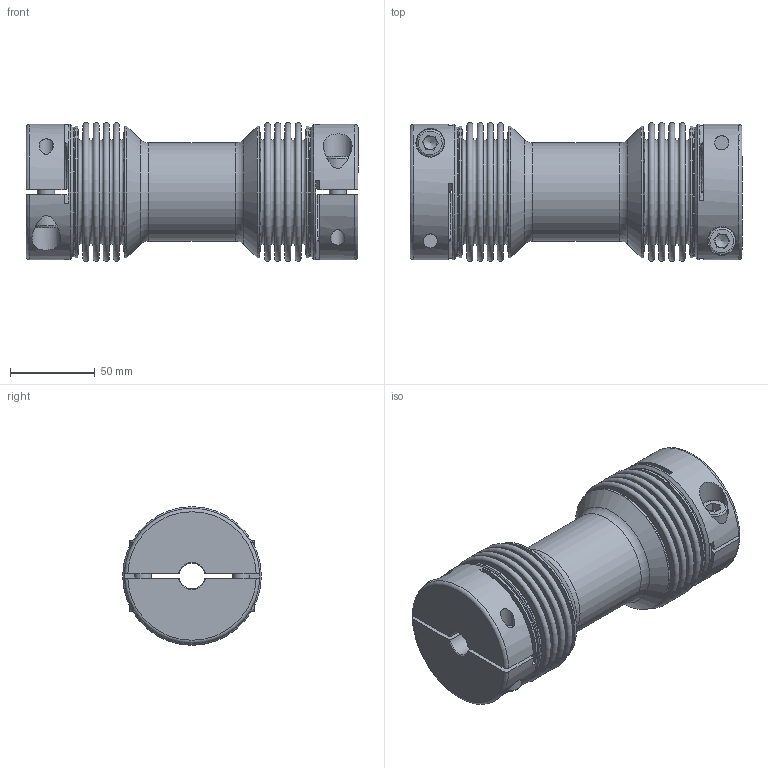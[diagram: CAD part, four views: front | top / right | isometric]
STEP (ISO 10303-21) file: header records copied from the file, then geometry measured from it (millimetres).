
FILE_DESCRIPTION(/* description */ ('Unknown','CAx-IF Rec.Pracs.---Representation and Presentation of Product Manufacturing Information (PMI)---4.0---2014-10-13','CAx-IF Rec.Pracs.---3D Tessellated Geometry---0.4---2014-09-14','2;1'),/* implementation_level */ '2;1');
FILE_NAME(/* name */ 'WDB 200',/* time_stamp */ '2023-01-16T11:51:05+01:00',/* author */ ('Unknown'),/* organization */ ('Unknown'),/* preprocessor_version */ 'ST-DEVELOPER v18.102',/* originating_system */ 'Solid Edge',/* authorisation */ 'Unknown');
FILE_SCHEMA (('AP242_MANAGED_MODEL_BASED_3D_ENGINEERING_MIM_LF { 1 0 10303 442 1 1 4 }'));
Length unit declared in the file: millimetre
Products named in the file (1): 16824420
Bounding box: 196.35 x 82 x 82 mm (x, y, z)
Volume: 347383.6 mm3; surface area: 216315.9 mm2
Topology: 1 solids, 1 shells, 258 faces, 566 edges, 362 vertices
Faces by surface type: plane 126, torus 56, cylinder 46, cone 30
Full cylindrical faces by diameter (mm): 8.376 x4, 10 x4, 10.5 x4, 16 x4, 17 x4, 52 x1, 56 x2, 58 x1, 76.8 x4, 78 x4, 80 x2
Entity records: 8753 total; most frequent: CARTESIAN_POINT 1710, DIRECTION 1136, ORIENTED_EDGE 864, AXIS2_PLACEMENT_3D 496, EDGE_CURVE 432, FACE_BOUND 428, EDGE_LOOP 424, VERTEX_POINT 336
